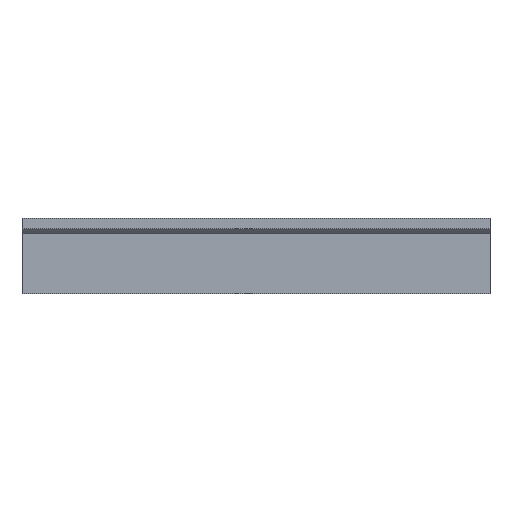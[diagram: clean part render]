
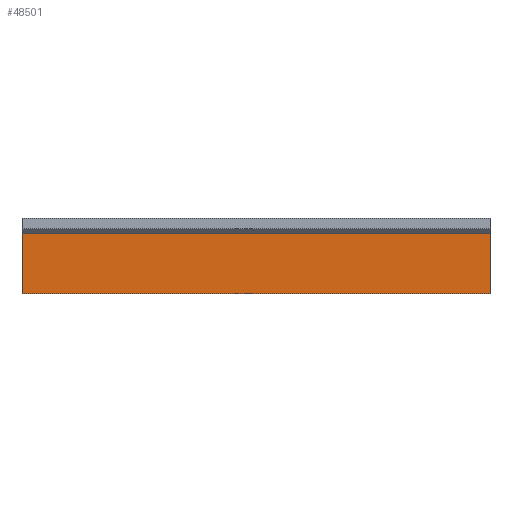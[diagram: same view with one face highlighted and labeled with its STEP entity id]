
A CAD part, left-side view. The second image highlights one B-rep face of the part: STEP entity #48501.
In plain terms, the highlighted planar face has unit normal (-1, 0, 0).
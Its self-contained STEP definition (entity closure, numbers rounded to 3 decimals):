
#32 = PLANE('',#33);
#33 = AXIS2_PLACEMENT_3D('',#34,#35,#36);
#34 = CARTESIAN_POINT('',(-200.,-101.,-1.));
#35 = DIRECTION('',(-0.,1.,0.));
#36 = DIRECTION('',(0.,0.,1.));
#850 = PLANE('',#851);
#851 = AXIS2_PLACEMENT_3D('',#852,#853,#854);
#852 = CARTESIAN_POINT('',(0.,-2.673,0.));
#853 = DIRECTION('',(0.,0.,1.));
#854 = DIRECTION('',(1.,0.,-0.));
#947 = VERTEX_POINT('',#948);
#948 = CARTESIAN_POINT('',(-192.,-101.,0.));
#969 = EDGE_CURVE('',#970,#947,#972,.T.);
#970 = VERTEX_POINT('',#971);
#971 = CARTESIAN_POINT('',(-192.,-101.,25.9));
#972 = SURFACE_CURVE('',#973,(#977,#984),.PCURVE_S1.);
#973 = LINE('',#974,#975);
#974 = CARTESIAN_POINT('',(-192.,-101.,-0.5));
#975 = VECTOR('',#976,1.);
#976 = DIRECTION('',(-0.,0.,-1.));
#977 = PCURVE('',#32,#978);
#978 = DEFINITIONAL_REPRESENTATION('',(#979),#983);
#979 = LINE('',#980,#981);
#980 = CARTESIAN_POINT('',(0.5,8.));
#981 = VECTOR('',#982,1.);
#982 = DIRECTION('',(-1.,0.));
#983 = ( GEOMETRIC_REPRESENTATION_CONTEXT(2) 
PARAMETRIC_REPRESENTATION_CONTEXT() REPRESENTATION_CONTEXT('2D SPACE',''
  ) );
#984 = PCURVE('',#985,#990);
#985 = PLANE('',#986);
#986 = AXIS2_PLACEMENT_3D('',#987,#988,#989);
#987 = CARTESIAN_POINT('',(-192.,152.,0.));
#988 = DIRECTION('',(1.,0.,-0.));
#989 = DIRECTION('',(0.,-1.,0.));
#990 = DEFINITIONAL_REPRESENTATION('',(#991),#995);
#991 = LINE('',#992,#993);
#992 = CARTESIAN_POINT('',(253.,0.5));
#993 = VECTOR('',#994,1.);
#994 = DIRECTION('',(-0.,1.));
#995 = ( GEOMETRIC_REPRESENTATION_CONTEXT(2) 
PARAMETRIC_REPRESENTATION_CONTEXT() REPRESENTATION_CONTEXT('2D SPACE',''
  ) );
#1015 = B_SPLINE_SURFACE_WITH_KNOTS('',1,1,(
    (#1016,#1017)
    ,(#1018,#1019
    )),.UNSPECIFIED.,.F.,.F.,.F.,(2,2),(2,2),(0.,330.1),(0.,1.),
  .PIECEWISE_BEZIER_KNOTS.);
#1016 = CARTESIAN_POINT('',(-192.,152.,25.9));
#1017 = CARTESIAN_POINT('',(-194.1,152.,28.));
#1018 = CARTESIAN_POINT('',(-192.,-176.,25.9));
#1019 = CARTESIAN_POINT('',(-194.1,-178.1,28.));
#1033 = VERTEX_POINT('',#1034);
#1034 = CARTESIAN_POINT('',(-192.,101.,25.9));
#1054 = PLANE('',#1055);
#1055 = AXIS2_PLACEMENT_3D('',#1056,#1057,#1058);
#1056 = CARTESIAN_POINT('',(-200.,101.,-1.));
#1057 = DIRECTION('',(-0.,1.,0.));
#1058 = DIRECTION('',(0.,0.,1.));
#1068 = EDGE_CURVE('',#1033,#970,#1069,.T.);
#1069 = SURFACE_CURVE('',#1070,(#1074,#1080),.PCURVE_S1.);
#1070 = LINE('',#1071,#1072);
#1071 = CARTESIAN_POINT('',(-192.,152.,25.9));
#1072 = VECTOR('',#1073,1.);
#1073 = DIRECTION('',(0.,-1.,0.));
#1074 = PCURVE('',#1015,#1075);
#1075 = DEFINITIONAL_REPRESENTATION('',(#1076),#1079);
#1076 = B_SPLINE_CURVE_WITH_KNOTS('',1,(#1077,#1078),.UNSPECIFIED.,.F.,
  .F.,(2,2),(0.,328.),.PIECEWISE_BEZIER_KNOTS.);
#1077 = CARTESIAN_POINT('',(0.,0.));
#1078 = CARTESIAN_POINT('',(330.1,0.));
#1079 = ( GEOMETRIC_REPRESENTATION_CONTEXT(2) 
PARAMETRIC_REPRESENTATION_CONTEXT() REPRESENTATION_CONTEXT('2D SPACE',''
  ) );
#1080 = PCURVE('',#985,#1081);
#1081 = DEFINITIONAL_REPRESENTATION('',(#1082),#1086);
#1082 = LINE('',#1083,#1084);
#1083 = CARTESIAN_POINT('',(0.,-25.9));
#1084 = VECTOR('',#1085,1.);
#1085 = DIRECTION('',(1.,0.));
#1086 = ( GEOMETRIC_REPRESENTATION_CONTEXT(2) 
PARAMETRIC_REPRESENTATION_CONTEXT() REPRESENTATION_CONTEXT('2D SPACE',''
  ) );
#1961 = VERTEX_POINT('',#1962);
#1962 = CARTESIAN_POINT('',(-192.,101.,0.));
#1983 = EDGE_CURVE('',#1033,#1961,#1984,.T.);
#1984 = SURFACE_CURVE('',#1985,(#1989,#1996),.PCURVE_S1.);
#1985 = LINE('',#1986,#1987);
#1986 = CARTESIAN_POINT('',(-192.,101.,-0.5));
#1987 = VECTOR('',#1988,1.);
#1988 = DIRECTION('',(-0.,0.,-1.));
#1989 = PCURVE('',#1054,#1990);
#1990 = DEFINITIONAL_REPRESENTATION('',(#1991),#1995);
#1991 = LINE('',#1992,#1993);
#1992 = CARTESIAN_POINT('',(0.5,8.));
#1993 = VECTOR('',#1994,1.);
#1994 = DIRECTION('',(-1.,0.));
#1995 = ( GEOMETRIC_REPRESENTATION_CONTEXT(2) 
PARAMETRIC_REPRESENTATION_CONTEXT() REPRESENTATION_CONTEXT('2D SPACE',''
  ) );
#1996 = PCURVE('',#985,#1997);
#1997 = DEFINITIONAL_REPRESENTATION('',(#1998),#2002);
#1998 = LINE('',#1999,#2000);
#1999 = CARTESIAN_POINT('',(51.,0.5));
#2000 = VECTOR('',#2001,1.);
#2001 = DIRECTION('',(-0.,1.));
#2002 = ( GEOMETRIC_REPRESENTATION_CONTEXT(2) 
PARAMETRIC_REPRESENTATION_CONTEXT() REPRESENTATION_CONTEXT('2D SPACE',''
  ) );
#48501 = ADVANCED_FACE('',(#48502),#985,.F.);
#48502 = FACE_BOUND('',#48503,.F.);
#48503 = EDGE_LOOP('',(#48504,#48525,#48526,#48527));
#48504 = ORIENTED_EDGE('',*,*,#48505,.F.);
#48505 = EDGE_CURVE('',#1961,#947,#48506,.T.);
#48506 = SURFACE_CURVE('',#48507,(#48511,#48518),.PCURVE_S1.);
#48507 = LINE('',#48508,#48509);
#48508 = CARTESIAN_POINT('',(-192.,152.,0.));
#48509 = VECTOR('',#48510,1.);
#48510 = DIRECTION('',(0.,-1.,0.));
#48511 = PCURVE('',#985,#48512);
#48512 = DEFINITIONAL_REPRESENTATION('',(#48513),#48517);
#48513 = LINE('',#48514,#48515);
#48514 = CARTESIAN_POINT('',(0.,0.));
#48515 = VECTOR('',#48516,1.);
#48516 = DIRECTION('',(1.,0.));
#48517 = ( GEOMETRIC_REPRESENTATION_CONTEXT(2) 
PARAMETRIC_REPRESENTATION_CONTEXT() REPRESENTATION_CONTEXT('2D SPACE',''
  ) );
#48518 = PCURVE('',#850,#48519);
#48519 = DEFINITIONAL_REPRESENTATION('',(#48520),#48524);
#48520 = LINE('',#48521,#48522);
#48521 = CARTESIAN_POINT('',(-192.,154.673));
#48522 = VECTOR('',#48523,1.);
#48523 = DIRECTION('',(0.,-1.));
#48524 = ( GEOMETRIC_REPRESENTATION_CONTEXT(2) 
PARAMETRIC_REPRESENTATION_CONTEXT() REPRESENTATION_CONTEXT('2D SPACE',''
  ) );
#48525 = ORIENTED_EDGE('',*,*,#1983,.F.);
#48526 = ORIENTED_EDGE('',*,*,#1068,.T.);
#48527 = ORIENTED_EDGE('',*,*,#969,.T.);
